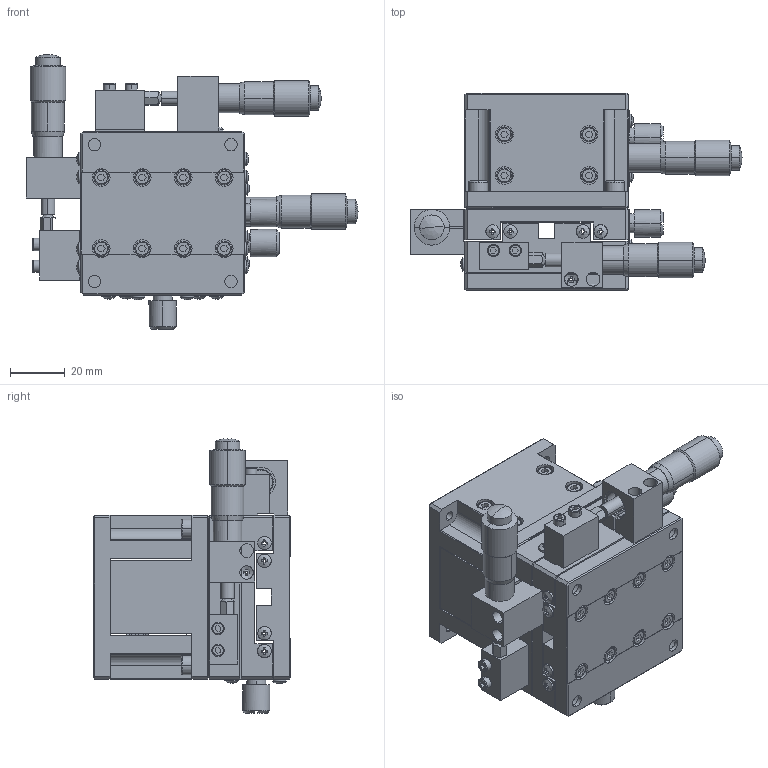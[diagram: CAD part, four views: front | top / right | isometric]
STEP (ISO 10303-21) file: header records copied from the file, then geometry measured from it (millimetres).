
FILE_DESCRIPTION (( 'STEP AP214' ), '1' );
FILE_NAME ('LD60.STEP', '2022-09-11T03:29:17', ( '' ), ( '' ), 'SwSTEP 2.0', 'SolidWorks 2017', '' );
FILE_SCHEMA (( 'AUTOMOTIVE_DESIGN' ));
Length unit declared in the file: millimetre
Products named in the file (1): LD60
Bounding box: 121.46 x 72 x 100.6 mm (x, y, z)
Surface area: 73854.7 mm2 (no closed solid volume)
Topology: 0 solids, 58 shells, 1174 faces, 3468 edges, 2339 vertices
Faces by surface type: plane 730, cylinder 232, cone 112, bspline 100
Entity records: 46805 total; most frequent: CARTESIAN_POINT 17084, ORIENTED_EDGE 6005, DIRECTION 5678, EDGE_CURVE 3434, VERTEX_POINT 2339, VECTOR 2006, LINE 2006, AXIS2_PLACEMENT_3D 1836
